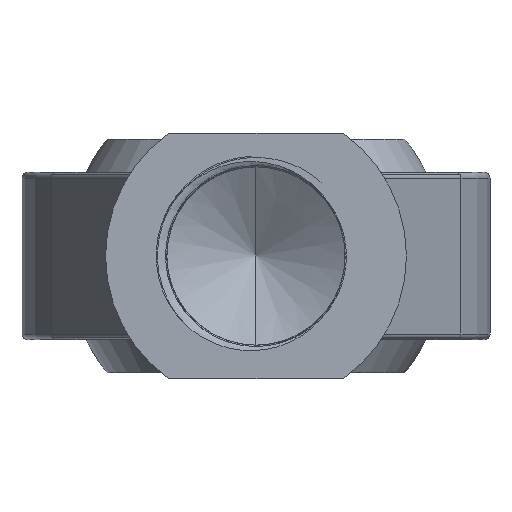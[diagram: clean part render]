
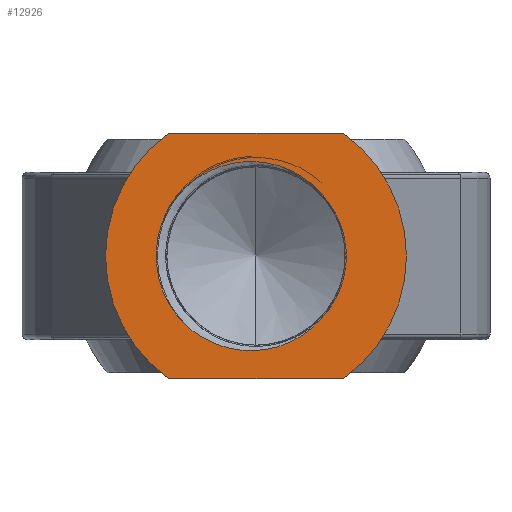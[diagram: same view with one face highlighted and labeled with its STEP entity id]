
A CAD part, front view. The second image highlights one B-rep face of the part: STEP entity #12926.
In plain terms, the highlighted planar face has unit normal (0, -1, 0).
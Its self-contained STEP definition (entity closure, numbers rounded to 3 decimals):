
#868=CARTESIAN_POINT('',(8.0,-2.0,0.));
#869=VERTEX_POINT('',#868);
#881=CARTESIAN_POINT('',(7.993,-2.0,0.335));
#882=VERTEX_POINT('',#881);
#883=CARTESIAN_POINT('',(0.0,-2.0,0.0));
#884=DIRECTION('',(0.0,1.0,0.0));
#885=DIRECTION('',(0.0,0.0,1.0));
#886=AXIS2_PLACEMENT_3D('',#883,#884,#885);
#887=CIRCLE('',#886,8.0);
#888=EDGE_CURVE('',#882,#869,#887,.T.);
#2927=CARTESIAN_POINT('',(-13.5,-2.0,0.));
#2928=VERTEX_POINT('',#2927);
#2944=CARTESIAN_POINT('',(-7.826,-2.0,-11.0));
#2945=VERTEX_POINT('',#2944);
#2952=CARTESIAN_POINT('',(0.0,-2.0,0.0));
#2953=DIRECTION('',(0.0,1.0,0.0));
#2954=DIRECTION('',(1.0,0.0,0.0));
#2955=AXIS2_PLACEMENT_3D('',#2952,#2953,#2954);
#2956=CIRCLE('',#2955,13.5);
#2957=EDGE_CURVE('',#2945,#2928,#2956,.T.);
#2967=CARTESIAN_POINT('',(13.5,-2.0,0.));
#2968=VERTEX_POINT('',#2967);
#2977=CARTESIAN_POINT('',(7.826,-2.0,-11.0));
#2978=VERTEX_POINT('',#2977);
#2979=CARTESIAN_POINT('',(0.0,-2.0,0.0));
#2980=DIRECTION('',(0.0,1.0,0.0));
#2981=DIRECTION('',(1.0,0.0,0.0));
#2982=AXIS2_PLACEMENT_3D('',#2979,#2980,#2981);
#2983=CIRCLE('',#2982,13.5);
#2984=EDGE_CURVE('',#2968,#2978,#2983,.T.);
#4730=CARTESIAN_POINT('',(5.849,-2.0,-5.619));
#4731=VERTEX_POINT('',#4730);
#4732=CARTESIAN_POINT('',(8.0,-2.0,0.));
#4733=CARTESIAN_POINT('',(8.0,-2.0,-1.041));
#4734=CARTESIAN_POINT('',(7.804,-2.0,-2.071));
#4735=CARTESIAN_POINT('',(6.944,-2.0,-4.263));
#4736=CARTESIAN_POINT('',(6.281,-2.0,-5.115));
#4737=CARTESIAN_POINT('',(5.849,-2.0,-5.619));
#4738=B_SPLINE_CURVE_WITH_KNOTS('',3,(#4732,#4733,#4734,#4735,#4736,#4737),.UNSPECIFIED.,.F.,.U.,(4,2,4),(0.0,3.124,7.058),.UNSPECIFIED.);
#4739=EDGE_CURVE('',#869,#4731,#4738,.T.);
#6532=CARTESIAN_POINT('',(-6.245,-2.0,-6.257));
#6533=VERTEX_POINT('',#6532);
#6534=CARTESIAN_POINT('',(5.849,-2.0,-5.619));
#6535=CARTESIAN_POINT('',(5.155,-2.0,-6.428));
#6536=CARTESIAN_POINT('',(4.309,-2.,-7.092));
#6537=CARTESIAN_POINT('',(2.389,-2.,-8.073));
#6538=CARTESIAN_POINT('',(1.331,-2.0,-8.373));
#6539=CARTESIAN_POINT('',(-0.863,-2.0,-8.556));
#6540=CARTESIAN_POINT('',(-1.979,-2.0,-8.429));
#6541=CARTESIAN_POINT('',(-3.628,-2.0,-7.907));
#6542=CARTESIAN_POINT('',(-4.195,-2.0,-7.658));
#6543=CARTESIAN_POINT('',(-5.274,-2.0,-7.041));
#6544=CARTESIAN_POINT('',(-5.781,-2.0,-6.674));
#6545=CARTESIAN_POINT('',(-6.245,-2.0,-6.257));
#6546=B_SPLINE_CURVE_WITH_KNOTS('',3,(#6534,#6535,#6536,#6537,#6538,#6539,#6540,#6541,#6542,#6543,#6544,#6545),.UNSPECIFIED.,.F.,.U.,(4,2,2,2,2,4),(0.0,3.197,6.463,9.797,11.647,13.518),.UNSPECIFIED.);
#6547=EDGE_CURVE('',#4731,#6533,#6546,.T.);
#8973=CARTESIAN_POINT('',(-6.502,-2.0,5.99));
#8974=VERTEX_POINT('',#8973);
#8975=CARTESIAN_POINT('',(-6.245,-2.0,-6.257));
#8976=CARTESIAN_POINT('',(-6.603,-2.0,-5.935));
#8977=CARTESIAN_POINT('',(-7.072,-2.0,-5.443));
#8978=CARTESIAN_POINT('',(-8.035,-2.0,-3.994));
#8979=CARTESIAN_POINT('',(-8.418,-2.,-3.139));
#8980=CARTESIAN_POINT('',(-8.927,-2.,-1.233));
#8981=CARTESIAN_POINT('',(-9.012,-2.,-0.181));
#8982=CARTESIAN_POINT('',(-8.802,-2.,1.912));
#8983=CARTESIAN_POINT('',(-8.505,-2.,2.938));
#8984=CARTESIAN_POINT('',(-7.544,-2.,4.84));
#8985=CARTESIAN_POINT('',(-6.963,-2.0,5.539));
#8986=CARTESIAN_POINT('',(-6.502,-2.0,5.99));
#8987=B_SPLINE_CURVE_WITH_KNOTS('',3,(#8975,#8976,#8977,#8978,#8979,#8980,#8981,#8982,#8983,#8984,#8985,#8986),.UNSPECIFIED.,.F.,.U.,(4,2,2,2,2,4),(0.0,1.444,3.088,4.939,6.812,8.717),.UNSPECIFIED.);
#8988=EDGE_CURVE('',#6533,#8974,#8987,.T.);
#10721=CARTESIAN_POINT('',(5.609,-2.0,5.859));
#10722=VERTEX_POINT('',#10721);
#10723=CARTESIAN_POINT('',(-6.502,-2.0,5.99));
#10724=CARTESIAN_POINT('',(-5.688,-2.0,6.786));
#10725=CARTESIAN_POINT('',(-4.728,-2.,7.417));
#10726=CARTESIAN_POINT('',(-2.64,-2.,8.263));
#10727=CARTESIAN_POINT('',(-1.536,-2.,8.478));
#10728=CARTESIAN_POINT('',(0.671,-2.,8.469));
#10729=CARTESIAN_POINT('',(1.751,-2.,8.253));
#10730=CARTESIAN_POINT('',(3.3,-2.,7.609));
#10731=CARTESIAN_POINT('',(3.816,-2.0,7.327));
#10732=CARTESIAN_POINT('',(4.774,-2.0,6.663));
#10733=CARTESIAN_POINT('',(5.213,-2.0,6.283));
#10734=CARTESIAN_POINT('',(5.609,-2.0,5.859));
#10735=B_SPLINE_CURVE_WITH_KNOTS('',3,(#10723,#10724,#10725,#10726,#10727,#10728,#10729,#10730,#10731,#10732,#10733,#10734),.UNSPECIFIED.,.F.,.U.,(4,2,2,2,2,4),(0.0,3.415,6.762,10.04,11.801,13.542),.UNSPECIFIED.);
#10736=EDGE_CURVE('',#8974,#10722,#10735,.T.);
#12808=CARTESIAN_POINT('',(5.609,-2.0,5.859));
#12809=CARTESIAN_POINT('',(6.02,-2.0,5.418));
#12810=CARTESIAN_POINT('',(6.598,-2.0,4.734));
#12811=CARTESIAN_POINT('',(7.349,-2.0,3.262));
#12812=CARTESIAN_POINT('',(7.557,-2.0,2.725));
#12813=CARTESIAN_POINT('',(7.871,-2.0,1.57));
#12814=CARTESIAN_POINT('',(7.967,-2.0,0.955));
#12815=CARTESIAN_POINT('',(7.993,-2.0,0.335));
#12816=B_SPLINE_CURVE_WITH_KNOTS('',3,(#12808,#12809,#12810,#12811,#12812,#12813,#12814,#12815),.UNSPECIFIED.,.F.,.U.,(4,2,2,4),(0.0,1.81,2.779,3.824),.UNSPECIFIED.);
#12817=EDGE_CURVE('',#10722,#882,#12816,.T.);
#12879=CARTESIAN_POINT('',(0.5,-2.0,0.));
#12880=DIRECTION('',(0.0,1.0,0.0));
#12881=DIRECTION('',(0.0,0.0,1.0));
#12882=AXIS2_PLACEMENT_3D('',#12879,#12880,#12881);
#12883=PLANE('',#12882);
#12884=CARTESIAN_POINT('',(-7.826,-2.0,-11.0));
#12885=DIRECTION('',(1.0,0.0,0.0));
#12886=VECTOR('',#12885,15.652);
#12887=LINE('',#12884,#12886);
#12888=EDGE_CURVE('',#2945,#2978,#12887,.T.);
#12889=ORIENTED_EDGE('',*,*,#12888,.T.);
#12890=ORIENTED_EDGE('',*,*,#2984,.F.);
#12891=CARTESIAN_POINT('',(7.826,-2.0,11.));
#12892=VERTEX_POINT('',#12891);
#12893=CARTESIAN_POINT('',(0.0,-2.0,0.0));
#12894=DIRECTION('',(0.0,1.0,0.0));
#12895=DIRECTION('',(1.0,0.0,0.0));
#12896=AXIS2_PLACEMENT_3D('',#12893,#12894,#12895);
#12897=CIRCLE('',#12896,13.5);
#12898=EDGE_CURVE('',#12892,#2968,#12897,.T.);
#12899=ORIENTED_EDGE('',*,*,#12898,.F.);
#12900=CARTESIAN_POINT('',(-7.826,-2.0,11.));
#12901=VERTEX_POINT('',#12900);
#12902=CARTESIAN_POINT('',(7.826,-2.0,11.));
#12903=DIRECTION('',(-1.0,0.0,0.0));
#12904=VECTOR('',#12903,15.652);
#12905=LINE('',#12902,#12904);
#12906=EDGE_CURVE('',#12892,#12901,#12905,.T.);
#12907=ORIENTED_EDGE('',*,*,#12906,.T.);
#12908=CARTESIAN_POINT('',(0.0,-2.0,0.0));
#12909=DIRECTION('',(0.0,1.0,0.0));
#12910=DIRECTION('',(1.0,0.0,0.0));
#12911=AXIS2_PLACEMENT_3D('',#12908,#12909,#12910);
#12912=CIRCLE('',#12911,13.5);
#12913=EDGE_CURVE('',#2928,#12901,#12912,.T.);
#12914=ORIENTED_EDGE('',*,*,#12913,.F.);
#12915=ORIENTED_EDGE('',*,*,#2957,.F.);
#12916=EDGE_LOOP('',(#12889,#12890,#12899,#12907,#12914,#12915));
#12917=FACE_OUTER_BOUND('',#12916,.T.);
#12918=ORIENTED_EDGE('',*,*,#4739,.T.);
#12919=ORIENTED_EDGE('',*,*,#6547,.T.);
#12920=ORIENTED_EDGE('',*,*,#8988,.T.);
#12921=ORIENTED_EDGE('',*,*,#10736,.T.);
#12922=ORIENTED_EDGE('',*,*,#12817,.T.);
#12923=ORIENTED_EDGE('',*,*,#888,.T.);
#12924=EDGE_LOOP('',(#12918,#12919,#12920,#12921,#12922,#12923));
#12925=FACE_BOUND('',#12924,.T.);
#12926=ADVANCED_FACE('',(#12917,#12925),#12883,.F.);
